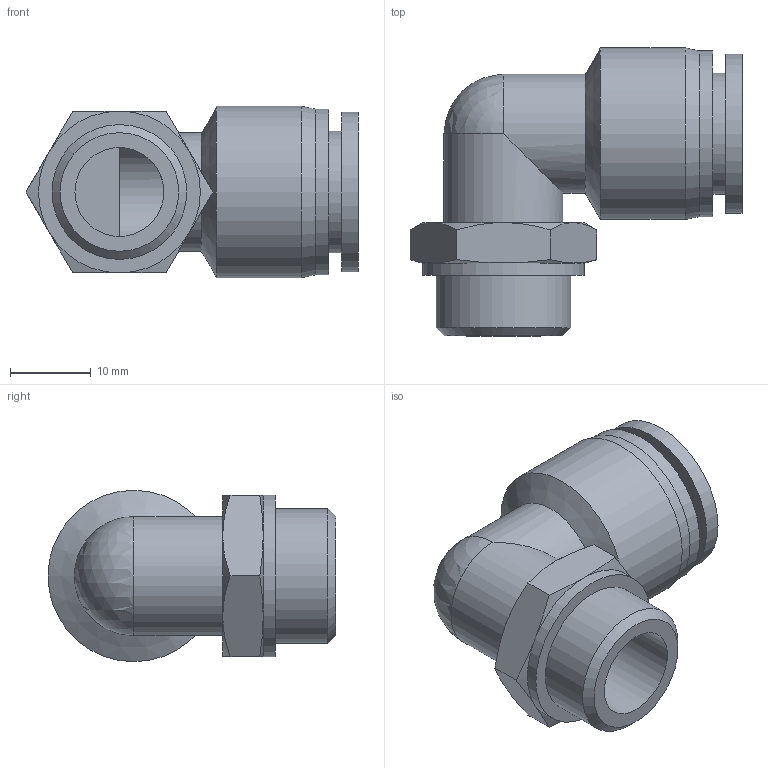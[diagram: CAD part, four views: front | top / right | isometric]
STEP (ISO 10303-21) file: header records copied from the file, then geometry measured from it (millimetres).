
FILE_DESCRIPTION(/* description */ (''),/* implementation_level */ '2;1');
FILE_NAME(/* name */ 'S:\UTecnico\ArchivioUT\Speciali Clienti\Speciali KONFIT\DISEGNI 3D\RP\RP 72\RP723812.stp',/* time_stamp */ '2015-01-28T18:28:27+01:00',/* author */ ('UT5'),/* organization */ (''),/* preprocessor_version */ 'ST-DEVELOPER v15.2',/* originating_system */ 'Autodesk Inventor 2014',/* authorisation */ '');
FILE_SCHEMA (('AUTOMOTIVE_DESIGN { 1 0 10303 214 3 1 1 }'));
Length unit declared in the file: millimetre
Products named in the file (1): RP723812
Bounding box: 41.05 x 35.6 x 21.2 mm (x, y, z)
Volume: 7971.6 mm3; surface area: 5897.9 mm2
Topology: 1 solids, 1 shells, 40 faces, 86 edges, 50 vertices
Faces by surface type: cone 15, plane 14, cylinder 10, sphere 1
Full cylindrical faces by diameter (mm): 11 x1, 12 x1, 14.7 x2, 15 x1, 16.662 x1, 19.7 x1, 20 x1, 20.5 x1, 21.2 x1
Entity records: 997 total; most frequent: CARTESIAN_POINT 227, DIRECTION 157, ORIENTED_EDGE 134, AXIS2_PLACEMENT_3D 74, EDGE_CURVE 67, EDGE_LOOP 59, VERTEX_POINT 46, ADVANCED_FACE 40
